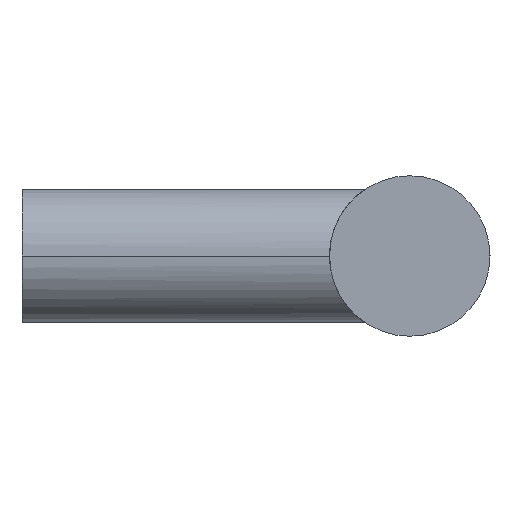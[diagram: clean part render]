
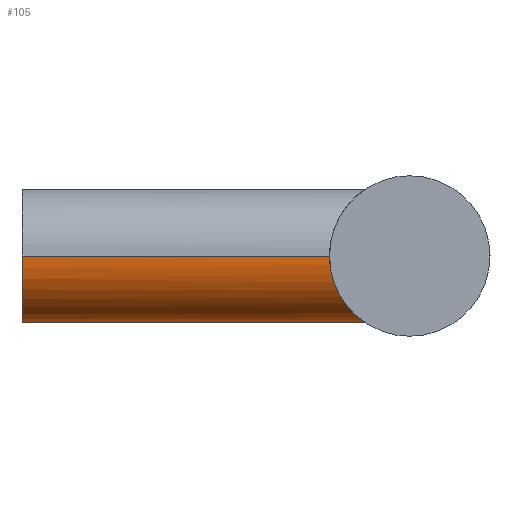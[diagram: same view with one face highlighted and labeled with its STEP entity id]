
A CAD part, left-side view. The second image highlights one B-rep face of the part: STEP entity #105.
In plain terms, the highlighted cylindrical face has radius 5 mm (diameter 10 mm), a partial arc.
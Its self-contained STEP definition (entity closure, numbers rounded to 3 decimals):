
#99 = EDGE_CURVE( '', #103, #131, #257, .T. );
#103 = VERTEX_POINT( '', #261 );
#105 = ADVANCED_FACE( '', ( #263 ), #264, .T. );
#127 = VERTEX_POINT( '', #289 );
#131 = VERTEX_POINT( '', #293 );
#165 = VERTEX_POINT( '', #334 );
#169 = EDGE_CURVE( '', #165, #127, #338, .T. );
#195 = EDGE_CURVE( '', #165, #131, #367, .T. );
#211 = EDGE_CURVE( '', #103, #127, #385, .T. );
#257 = B_SPLINE_CURVE_WITH_KNOTS( '', 3, ( #444, #445, #446, #447, #448, #449, #450, #451, #452, #453, #454, #455, #456, #457, #458, #459, #460, #461, #462, #463, #464, #465, #466, #467, #468, #469, #470, #471, #472, #473, #474, #475, #476, #477 ), .UNSPECIFIED., .F., .F., ( 4, 2, 2, 2, 2, 2, 2, 2, 2, 2, 2, 2, 2, 2, 2, 2, 4 ), ( 8.161, 9.16, 10.159, 11.158, 12.157, 13.198, 14.239, 15.28, 16.322, 17.363, 18.404, 19.446, 20.487, 21.486, 22.485, 23.484, 24.483 ), .UNSPECIFIED. );
#261 = CARTESIAN_POINT( '', ( -5., -23., 0. ) );
#263 = FACE_OUTER_BOUND( '', #485, .T. );
#264 = CYLINDRICAL_SURFACE( '', #486, 5. );
#289 = CARTESIAN_POINT( '', ( -5., 0., 0. ) );
#293 = CARTESIAN_POINT( '', ( 5., -23., 0. ) );
#334 = CARTESIAN_POINT( '', ( 5., 0., 0. ) );
#338 = CIRCLE( '', #590, 5. );
#367 = LINE( '', #678, #679 );
#385 = LINE( '', #720, #721 );
#444 = CARTESIAN_POINT( '', ( -5., -23., 0. ) );
#445 = CARTESIAN_POINT( '', ( -5., -23., -0.333 ) );
#446 = CARTESIAN_POINT( '', ( -4.966, -23.028, -0.672 ) );
#447 = CARTESIAN_POINT( '', ( -4.83, -23.141, -1.335 ) );
#448 = CARTESIAN_POINT( '', ( -4.728, -23.225, -1.659 ) );
#449 = CARTESIAN_POINT( '', ( -4.467, -23.437, -2.272 ) );
#450 = CARTESIAN_POINT( '', ( -4.306, -23.566, -2.561 ) );
#451 = CARTESIAN_POINT( '', ( -3.946, -23.847, -3.088 ) );
#452 = CARTESIAN_POINT( '', ( -3.745, -24., -3.326 ) );
#453 = CARTESIAN_POINT( '', ( -3.317, -24.311, -3.754 ) );
#454 = CARTESIAN_POINT( '', ( -3.073, -24.483, -3.957 ) );
#455 = CARTESIAN_POINT( '', ( -2.544, -24.825, -4.316 ) );
#456 = CARTESIAN_POINT( '', ( -2.259, -24.995, -4.472 ) );
#457 = CARTESIAN_POINT( '', ( -1.659, -25.301, -4.728 ) );
#458 = CARTESIAN_POINT( '', ( -1.343, -25.436, -4.828 ) );
#459 = CARTESIAN_POINT( '', ( -0.687, -25.627, -4.964 ) );
#460 = CARTESIAN_POINT( '', ( -0.347, -25.683, -5. ) );
#461 = CARTESIAN_POINT( '', ( 0.347, -25.683, -5. ) );
#462 = CARTESIAN_POINT( '', ( 0.687, -25.627, -4.964 ) );
#463 = CARTESIAN_POINT( '', ( 1.343, -25.436, -4.828 ) );
#464 = CARTESIAN_POINT( '', ( 1.659, -25.301, -4.728 ) );
#465 = CARTESIAN_POINT( '', ( 2.259, -24.995, -4.472 ) );
#466 = CARTESIAN_POINT( '', ( 2.544, -24.825, -4.316 ) );
#467 = CARTESIAN_POINT( '', ( 3.073, -24.483, -3.957 ) );
#468 = CARTESIAN_POINT( '', ( 3.317, -24.311, -3.754 ) );
#469 = CARTESIAN_POINT( '', ( 3.745, -24., -3.326 ) );
#470 = CARTESIAN_POINT( '', ( 3.946, -23.847, -3.088 ) );
#471 = CARTESIAN_POINT( '', ( 4.306, -23.566, -2.561 ) );
#472 = CARTESIAN_POINT( '', ( 4.467, -23.437, -2.272 ) );
#473 = CARTESIAN_POINT( '', ( 4.728, -23.225, -1.659 ) );
#474 = CARTESIAN_POINT( '', ( 4.83, -23.141, -1.335 ) );
#475 = CARTESIAN_POINT( '', ( 4.966, -23.028, -0.672 ) );
#476 = CARTESIAN_POINT( '', ( 5., -23., -0.333 ) );
#477 = CARTESIAN_POINT( '', ( 5., -23., 0. ) );
#485 = EDGE_LOOP( '', ( #760, #761, #762, #763 ) );
#486 = AXIS2_PLACEMENT_3D( '', #764, #765, #766 );
#590 = AXIS2_PLACEMENT_3D( '', #855, #856, #857 );
#678 = CARTESIAN_POINT( '', ( 5., 0., 0. ) );
#679 = VECTOR( '', #884, 1. );
#720 = CARTESIAN_POINT( '', ( -5., 0., 0. ) );
#721 = VECTOR( '', #906, 1. );
#760 = ORIENTED_EDGE( '', *, *, #195, .T. );
#761 = ORIENTED_EDGE( '', *, *, #99, .F. );
#762 = ORIENTED_EDGE( '', *, *, #211, .T. );
#763 = ORIENTED_EDGE( '', *, *, #169, .F. );
#764 = CARTESIAN_POINT( '', ( 0., 0., 0. ) );
#765 = DIRECTION( '', ( 0., 1., 0. ) );
#766 = DIRECTION( '', ( 1., 0., 0. ) );
#855 = CARTESIAN_POINT( '', ( 0., 0., 0. ) );
#856 = DIRECTION( '', ( 0., 1., 0. ) );
#857 = DIRECTION( '', ( 1., 0., 0. ) );
#884 = DIRECTION( '', ( 0., -1., 0. ) );
#906 = DIRECTION( '', ( 0., 1., 0. ) );
